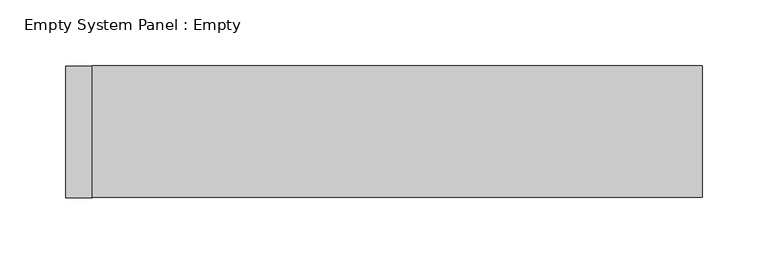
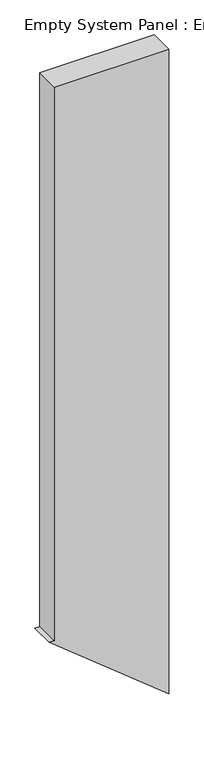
"""IFC4 building model written with IfcOpenShell, lengths in millimetres: plate geometry, Empty System Panel : Empty."""

import ifcopenshell
import ifcopenshell.guid

model = None  # the IFC model being written
_history = None  # IfcOwnerHistory: only IFC2X3 demands one
_inside = {}  # id of a spatial element -> (the spatial element, [elements in it])
_under = {}  # id of a project, library or spatial element -> (it, [spatial elements below it])
_declared = {}  # id of a project -> (the project, [libraries it declares])
_typed = {}  # id of a type object -> (the type object, [elements of that type])
_made_of = {}  # id of a material, layer set ... -> (it, [elements and type objects made of it])


def new_model(schema):
    """Start an empty IFC model of exactly this schema.

    Asked for "IFC4X3", IfcOpenShell would pick the latest addendum, in which some entities
    have other attributes; the version numbers below select the first issue.
    IFC2X3 requires an IfcOwnerHistory on every rooted entity: one is made here for all.
    """
    global model, _history
    if schema == "IFC4X3":
        model = ifcopenshell.file(schema_version=(4, 3, 0, 0))
    else:
        model = ifcopenshell.file(schema=schema)
    _inside.clear()
    _under.clear()
    _declared.clear()
    _typed.clear()
    _made_of.clear()
    _history = None
    if model.schema == "IFC2X3":
        org = make("IfcOrganization", Name="unknown")
        user = make(
            "IfcPersonAndOrganization",
            ThePerson=make("IfcPerson", FamilyName="unknown"),
            TheOrganization=org,
        )
        app = make(
            "IfcApplication",
            ApplicationDeveloper=org,
            Version="unknown",
            ApplicationFullName="unknown",
            ApplicationIdentifier="unknown",
        )
        _history = make(
            "IfcOwnerHistory",
            OwningUser=user,
            OwningApplication=app,
            ChangeAction="ADDED",
            CreationDate=0,
        )
    return model


def make(cls, **values):
    """One entity of the class cls with the attributes given. An attribute that is None is left unset."""
    return model.create_entity(
        cls, **{name: value for name, value in values.items() if value is not None}
    )


def rooted(cls, **values):
    """An entity with a GlobalId (a new one), such as an element, a storey or a relation."""
    return make(cls, GlobalId=ifcopenshell.guid.new(), OwnerHistory=_history, **values)


def si_unit(unit_type, name, prefix=None):
    """IfcSIUnit, for example si_unit("LENGTHUNIT", "METRE", prefix="MILLI")."""
    return make("IfcSIUnit", UnitType=unit_type, Prefix=prefix, Name=name)


def assignment(units):
    """IfcUnitAssignment: the units of a project."""
    return None if units is None else make("IfcUnitAssignment", Units=units)


def point(xyz):
    """IfcCartesianPoint."""
    return None if xyz is None else make("IfcCartesianPoint", Coordinates=xyz)


def direction(xyz):
    """IfcDirection."""
    return None if xyz is None else make("IfcDirection", DirectionRatios=xyz)


def frame(location, z_axis=None, x_axis=None):
    """IfcAxis2Placement3D, a coordinate frame: its origin and axes. An axis left out is left unset."""
    return make(
        "IfcAxis2Placement3D",
        Location=point(location),
        Axis=direction(z_axis),
        RefDirection=direction(x_axis),
    )


def origin():
    """The frame at (0, 0, 0) with its axes left unset."""
    return frame((0.0, 0.0, 0.0))


def place(relative_to, where):
    """IfcLocalPlacement: puts the frame where relative to a parent placement (None: the world)."""
    return make(
        "IfcLocalPlacement", PlacementRelTo=relative_to, RelativePlacement=where
    )


def context(
    kind, dimensions, precision=None, world=None, true_north=None, identifier=None
):
    """IfcGeometricRepresentationContext, for example the 3D "Model" context."""
    return make(
        "IfcGeometricRepresentationContext",
        ContextIdentifier=identifier,
        ContextType=kind,
        CoordinateSpaceDimension=dimensions,
        Precision=precision,
        WorldCoordinateSystem=world,
        TrueNorth=true_north,
    )


def project(units=None, contexts=None):
    """IfcProject with its units and contexts."""
    return rooted(
        "IfcProject",
        Name="project",
        RepresentationContexts=contexts,
        UnitsInContext=assignment(units),
    )


def spatial(cls, under=None, at=None, **own):
    """A site, building, storey or space (cls), placed at a placement, below another one or the project."""
    s = rooted(cls, ObjectPlacement=at, **own)
    if under is not None:
        _under.setdefault(under.id(), (under, []))[1].append(s)
    return s


def polyline(points):
    """IfcPolyline through the points."""
    return make("IfcPolyline", Points=[point(p) for p in points])


def outline(outer, holes=None, kind="AREA"):
    """IfcArbitraryClosedProfileDef: a profile drawn as a closed curve; with holes, ...WithVoids."""
    if holes is None:
        return make("IfcArbitraryClosedProfileDef", ProfileType=kind, OuterCurve=outer)
    return make(
        "IfcArbitraryProfileDefWithVoids",
        ProfileType=kind,
        OuterCurve=outer,
        InnerCurves=holes,
    )


def extrude(swept, where, along, depth):
    """IfcExtrudedAreaSolid: the profile swept, set in the frame where, extruded along a direction by depth."""
    return make(
        "IfcExtrudedAreaSolid",
        SweptArea=swept,
        Position=where,
        ExtrudedDirection=direction(along),
        Depth=depth,
    )


def shape(context_of_items, identifier, shape_type, items):
    """IfcShapeRepresentation: the items that make up one representation, for example the "Body"."""
    return make(
        "IfcShapeRepresentation",
        ContextOfItems=context_of_items,
        RepresentationIdentifier=identifier,
        RepresentationType=shape_type,
        Items=items,
    )


def source(mapping_origin, context_of_items, identifier, shape_type, items):
    """IfcRepresentationMap: a shape defined once, which mapped items show again and again."""
    return make(
        "IfcRepresentationMap",
        MappingOrigin=mapping_origin,
        MappedRepresentation=shape(context_of_items, identifier, shape_type, items),
    )


def transform(
    local_origin,
    x_axis=None,
    y_axis=None,
    z_axis=None,
    scale=None,
    scale2=None,
    scale3=None,
    uniform=True,
):
    """IfcCartesianTransformationOperator3D, or its non-uniform kind. x_axis, y_axis, z_axis: its Axis1, 2, 3."""
    if uniform:
        return make(
            "IfcCartesianTransformationOperator3D",
            Axis1=direction(x_axis),
            Axis2=direction(y_axis),
            LocalOrigin=point(local_origin),
            Scale=scale,
            Axis3=direction(z_axis),
        )
    return make(
        "IfcCartesianTransformationOperator3DnonUniform",
        Axis1=direction(x_axis),
        Axis2=direction(y_axis),
        LocalOrigin=point(local_origin),
        Scale=scale,
        Axis3=direction(z_axis),
        Scale2=scale2,
        Scale3=scale3,
    )


def mapped(mapping_source, mapping_target):
    """IfcMappedItem: shows the shape of a source again, moved by a transform."""
    return make(
        "IfcMappedItem", MappingSource=mapping_source, MappingTarget=mapping_target
    )


def made_of(thing, what):
    """Note that an element or type object is made of a material, layer set ...; save() writes the relation."""
    if what is not None:
        _made_of.setdefault(what.id(), (what, []))[1].append(thing)
    return thing


def element(
    cls,
    number,
    at=None,
    inside=None,
    cuts=None,
    type_object=None,
    material=None,
    context=None,
    identifier="Body",
    shape_type=None,
    held_by="IfcProductDefinitionShape",
    body=None,
    shapes=None,
    **own,
):
    """One element of the class cls, such as IfcWall. Its Tag is "e" and its number.

    at: its placement. inside: the storey or other place that contains it. cuts: it is an
    opening in that element (IfcRelVoidsElement). A single representation is given by context,
    identifier, shape_type and body (its items); several are given by shapes. held_by: the class
    of the entity that holds the representations. save() writes the other relations.
    """
    e = rooted(cls, Tag="e%d" % number, ObjectPlacement=at, **own)
    if body is not None:
        shapes = [shape(context, identifier, shape_type, body)]
    if shapes is not None:
        e.Representation = make(held_by, Representations=shapes)
    if inside is not None:
        _inside.setdefault(inside.id(), (inside, []))[1].append(e)
    if cuts is not None:
        rooted(
            "IfcRelVoidsElement", RelatingBuildingElement=cuts, RelatedOpeningElement=e
        )
    if type_object is not None:
        _typed.setdefault(type_object.id(), (type_object, []))[1].append(e)
    return made_of(e, material)


def aggregate(whole, parts):
    """IfcRelAggregates: a whole, such as a stair, and the parts it consists of."""
    return rooted("IfcRelAggregates", RelatingObject=whole, RelatedObjects=parts)


def save(model, path):
    """Write the relations noted so far, then the file.

    IfcRelAggregates (storeys below a building ...), IfcRelContainedInSpatialStructure (elements
    in a storey), IfcRelDefinesByType, IfcRelAssociatesMaterial and IfcRelDeclares: one each for
    every whole, place, type object, material and project.
    """
    for whole, parts in _under.values():
        aggregate(whole, parts)
    for where, things in _inside.values():
        rooted(
            "IfcRelContainedInSpatialStructure",
            RelatedElements=things,
            RelatingStructure=where,
        )
    for kind, things in _typed.values():
        rooted("IfcRelDefinesByType", RelatedObjects=things, RelatingType=kind)
    for what, things in _made_of.values():
        rooted("IfcRelAssociatesMaterial", RelatedObjects=things, RelatingMaterial=what)
    for by, libraries in _declared.values():
        rooted("IfcRelDeclares", RelatingContext=by, RelatedDefinitions=libraries)
    model.write(path)


def empty_system_panel_empty_aa2ab915(model_context):
    return source(origin(), model_context, "Body", "SweptSolid", [
        extrude(outline(polyline([(387.504061, -241.7391304), (0.0, 241.7391304), (2755.3644014, 241.7391304), (2755.3644014, -221.7391304), (387.504061, -221.7391304), (387.504061, -241.7391304)])), frame((0.0, -50.0, 0.0), z_axis=(0.0, 1.0, 0.0), x_axis=(0.0, 0.0, 1.0)), (0.0, 0.0, 1.0), 100.0),
    ])


if __name__ == "__main__":
    model = new_model("IFC4")
    model_context = context("Model", 3, world=origin())
    ifc_project = project(units=[si_unit("LENGTHUNIT", "METRE", prefix="MILLI")], contexts=[model_context])
    site = spatial("IfcSite", under=ifc_project)
    building = spatial("IfcBuilding", under=site)
    placement = place(None, origin())
    empty_system_panel_empty_shape = empty_system_panel_empty_aa2ab915(model_context)
    element("IfcPlate", 1, ObjectType="Empty System Panel : Empty", at=placement, inside=building, context=model_context, shape_type="MappedRepresentation", body=[
        mapped(empty_system_panel_empty_shape, transform((0.0, 0.0, 0.0), x_axis=(1.0, 0.0, 0.0), y_axis=(0.0, 1.0, 0.0), z_axis=(0.0, 0.0, 1.0))),
    ])
    save(model, "model.ifc")
